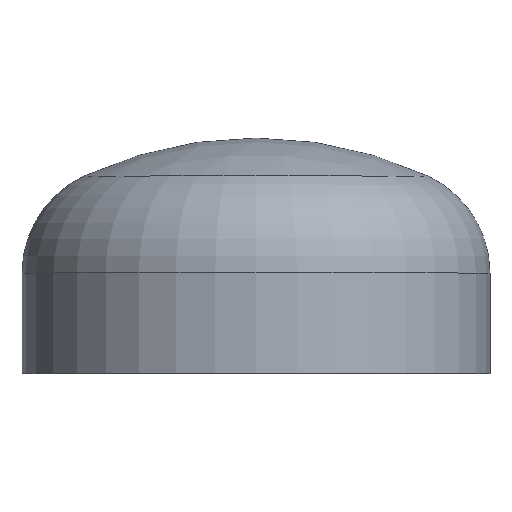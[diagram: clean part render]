
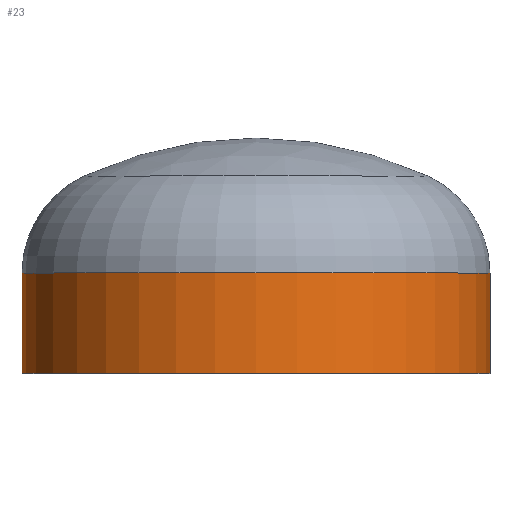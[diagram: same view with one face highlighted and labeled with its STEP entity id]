
A CAD part, top view. The second image highlights one B-rep face of the part: STEP entity #23.
In plain terms, the highlighted cylindrical face has radius 350 mm (diameter 700 mm), a partial arc.
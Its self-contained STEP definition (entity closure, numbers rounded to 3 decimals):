
#5 = CARTESIAN_POINT ( 'NONE',  ( 350., 150., 0. ) ) ;
#20 = CARTESIAN_POINT ( 'NONE',  ( 350., 0., 0. ) ) ;
#21 = EDGE_LOOP ( 'NONE', ( #325, #153, #329, #131 ) ) ;
#23 = ADVANCED_FACE ( 'NONE', ( #220 ), #311, .T. ) ;
#36 = AXIS2_PLACEMENT_3D ( 'NONE', #150, #57, #52 ) ;
#52 = DIRECTION ( 'NONE',  ( 1., 0., 0. ) ) ;
#53 = LINE ( 'NONE', #405, #158 ) ;
#57 = DIRECTION ( 'NONE',  ( 0., -1., 0. ) ) ;
#62 = VERTEX_POINT ( 'NONE', #246 ) ;
#79 = AXIS2_PLACEMENT_3D ( 'NONE', #248, #288, #250 ) ;
#87 = EDGE_CURVE ( 'NONE', #184, #166, #53, .T. ) ;
#89 = CARTESIAN_POINT ( 'NONE',  ( 0., 0., 0. ) ) ;
#91 = EDGE_CURVE ( 'NONE', #62, #382, #372, .T. ) ;
#127 = DIRECTION ( 'NONE',  ( 1., 0., 0. ) ) ;
#131 = ORIENTED_EDGE ( 'NONE', *, *, #87, .F. ) ;
#150 = CARTESIAN_POINT ( 'NONE',  ( 0., 150., 0. ) ) ;
#151 = CIRCLE ( 'NONE', #276, 350. ) ;
#153 = ORIENTED_EDGE ( 'NONE', *, *, #91, .T. ) ;
#158 = VECTOR ( 'NONE', #229, 1000. ) ;
#166 = VERTEX_POINT ( 'NONE', #20 ) ;
#184 = VERTEX_POINT ( 'NONE', #5 ) ;
#220 = FACE_OUTER_BOUND ( 'NONE', #21, .T. ) ;
#226 = CARTESIAN_POINT ( 'NONE',  ( -350., 0., 0. ) ) ;
#229 = DIRECTION ( 'NONE',  ( 0., -1., 0. ) ) ;
#234 = DIRECTION ( 'NONE',  ( 0., -1., 0. ) ) ;
#246 = CARTESIAN_POINT ( 'NONE',  ( -350., 150., 0. ) ) ;
#248 = CARTESIAN_POINT ( 'NONE',  ( 0., 0., 0. ) ) ;
#250 = DIRECTION ( 'NONE',  ( 1., 0., 0. ) ) ;
#276 = AXIS2_PLACEMENT_3D ( 'NONE', #89, #306, #127 ) ;
#288 = DIRECTION ( 'NONE',  ( 0., -1., 0. ) ) ;
#289 = EDGE_CURVE ( 'NONE', #184, #62, #343, .T. ) ;
#306 = DIRECTION ( 'NONE',  ( 0., -1., 0. ) ) ;
#311 = CYLINDRICAL_SURFACE ( 'NONE', #79, 350. ) ;
#325 = ORIENTED_EDGE ( 'NONE', *, *, #289, .T. ) ;
#329 = ORIENTED_EDGE ( 'NONE', *, *, #389, .F. ) ;
#343 = CIRCLE ( 'NONE', #36, 350. ) ;
#367 = VECTOR ( 'NONE', #234, 1000. ) ;
#372 = LINE ( 'NONE', #226, #367 ) ;
#382 = VERTEX_POINT ( 'NONE', #407 ) ;
#389 = EDGE_CURVE ( 'NONE', #166, #382, #151, .T. ) ;
#405 = CARTESIAN_POINT ( 'NONE',  ( 350., 0., 0. ) ) ;
#407 = CARTESIAN_POINT ( 'NONE',  ( -350., 0., 0. ) ) ;
